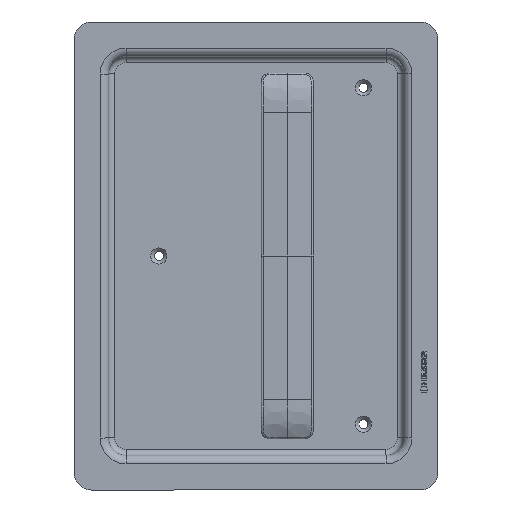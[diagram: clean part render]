
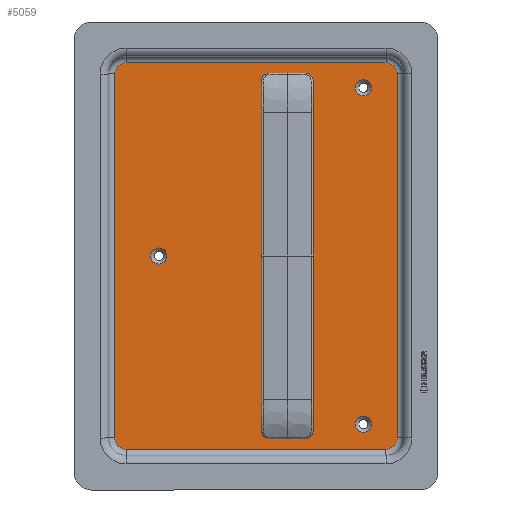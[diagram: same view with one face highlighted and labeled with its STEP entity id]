
A CAD part, front view. The second image highlights one B-rep face of the part: STEP entity #5059.
In plain terms, the highlighted planar face has unit normal (0, -1, 0) as drawn and (0, 0, -1) by its records, which use the part's own axes.
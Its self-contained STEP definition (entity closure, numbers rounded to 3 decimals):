
#453=FACE_BOUND('',#920,.T.);
#454=FACE_BOUND('',#921,.T.);
#455=FACE_BOUND('',#922,.T.);
#456=FACE_BOUND('',#923,.T.);
#457=FACE_BOUND('',#924,.T.);
#458=FACE_BOUND('',#925,.T.);
#459=FACE_BOUND('',#926,.T.);
#488=PLANE('',#5487);
#612=FACE_OUTER_BOUND('',#919,.T.);
#919=EDGE_LOOP('',(#3515,#3516,#3517,#3518,#3519,#3520,#3521,#3522));
#920=EDGE_LOOP('',(#3523));
#921=EDGE_LOOP('',(#3524));
#922=EDGE_LOOP('',(#3525));
#923=EDGE_LOOP('',(#3526));
#924=EDGE_LOOP('',(#3527));
#925=EDGE_LOOP('',(#3528));
#926=EDGE_LOOP('',(#3529));
#1252=LINE('',#7049,#1669);
#1253=LINE('',#7053,#1670);
#1254=LINE('',#7057,#1671);
#1255=LINE('',#7061,#1672);
#1669=VECTOR('',#5900,10.);
#1670=VECTOR('',#5903,10.);
#1671=VECTOR('',#5906,10.);
#1672=VECTOR('',#5909,10.);
#2087=CIRCLE('',#5474,2.75);
#2089=CIRCLE('',#5477,2.75);
#2091=CIRCLE('',#5480,2.75);
#2093=CIRCLE('',#5483,2.75);
#2095=CIRCLE('',#5486,4.65);
#2096=CIRCLE('',#5488,6.5);
#2097=CIRCLE('',#5489,6.5);
#2098=CIRCLE('',#5490,6.5);
#2099=CIRCLE('',#5491,6.5);
#2100=CIRCLE('',#5492,4.65);
#2101=CIRCLE('',#5493,4.65);
#2215=VERTEX_POINT('',#7019);
#2217=VERTEX_POINT('',#7025);
#2219=VERTEX_POINT('',#7031);
#2221=VERTEX_POINT('',#7037);
#2223=VERTEX_POINT('',#7043);
#2224=VERTEX_POINT('',#7047);
#2225=VERTEX_POINT('',#7048);
#2226=VERTEX_POINT('',#7050);
#2227=VERTEX_POINT('',#7052);
#2228=VERTEX_POINT('',#7054);
#2229=VERTEX_POINT('',#7056);
#2230=VERTEX_POINT('',#7058);
#2231=VERTEX_POINT('',#7060);
#2232=VERTEX_POINT('',#7063);
#2233=VERTEX_POINT('',#7065);
#2715=EDGE_CURVE('',#2215,#2215,#2087,.T.);
#2718=EDGE_CURVE('',#2217,#2217,#2089,.T.);
#2721=EDGE_CURVE('',#2219,#2219,#2091,.T.);
#2724=EDGE_CURVE('',#2221,#2221,#2093,.T.);
#2727=EDGE_CURVE('',#2223,#2223,#2095,.T.);
#2729=EDGE_CURVE('',#2224,#2225,#1252,.T.);
#2730=EDGE_CURVE('',#2225,#2226,#2096,.T.);
#2731=EDGE_CURVE('',#2226,#2227,#1253,.T.);
#2732=EDGE_CURVE('',#2227,#2228,#2097,.T.);
#2733=EDGE_CURVE('',#2228,#2229,#1254,.T.);
#2734=EDGE_CURVE('',#2229,#2230,#2098,.T.);
#2735=EDGE_CURVE('',#2230,#2231,#1255,.T.);
#2736=EDGE_CURVE('',#2231,#2224,#2099,.T.);
#2737=EDGE_CURVE('',#2232,#2232,#2100,.T.);
#2738=EDGE_CURVE('',#2233,#2233,#2101,.T.);
#3515=ORIENTED_EDGE('',*,*,#2729,.T.);
#3516=ORIENTED_EDGE('',*,*,#2730,.T.);
#3517=ORIENTED_EDGE('',*,*,#2731,.T.);
#3518=ORIENTED_EDGE('',*,*,#2732,.T.);
#3519=ORIENTED_EDGE('',*,*,#2733,.T.);
#3520=ORIENTED_EDGE('',*,*,#2734,.T.);
#3521=ORIENTED_EDGE('',*,*,#2735,.T.);
#3522=ORIENTED_EDGE('',*,*,#2736,.T.);
#3523=ORIENTED_EDGE('',*,*,#2715,.T.);
#3524=ORIENTED_EDGE('',*,*,#2718,.T.);
#3525=ORIENTED_EDGE('',*,*,#2721,.T.);
#3526=ORIENTED_EDGE('',*,*,#2724,.T.);
#3527=ORIENTED_EDGE('',*,*,#2737,.F.);
#3528=ORIENTED_EDGE('',*,*,#2738,.F.);
#3529=ORIENTED_EDGE('',*,*,#2727,.F.);
#5059=ADVANCED_FACE('',(#612,#453,#454,#455,#456,#457,#458,#459),#488,.F.);
#5474=AXIS2_PLACEMENT_3D('',#7020,#5867,#5868);
#5477=AXIS2_PLACEMENT_3D('',#7026,#5874,#5875);
#5480=AXIS2_PLACEMENT_3D('',#7032,#5881,#5882);
#5483=AXIS2_PLACEMENT_3D('',#7038,#5888,#5889);
#5486=AXIS2_PLACEMENT_3D('',#7044,#5895,#5896);
#5487=AXIS2_PLACEMENT_3D('',#7046,#5898,#5899);
#5488=AXIS2_PLACEMENT_3D('',#7051,#5901,#5902);
#5489=AXIS2_PLACEMENT_3D('',#7055,#5904,#5905);
#5490=AXIS2_PLACEMENT_3D('',#7059,#5907,#5908);
#5491=AXIS2_PLACEMENT_3D('',#7062,#5910,#5911);
#5492=AXIS2_PLACEMENT_3D('',#7064,#5912,#5913);
#5493=AXIS2_PLACEMENT_3D('',#7066,#5914,#5915);
#5867=DIRECTION('center_axis',(0.,0.,1.));
#5868=DIRECTION('ref_axis',(1.,0.,0.));
#5874=DIRECTION('center_axis',(0.,0.,1.));
#5875=DIRECTION('ref_axis',(1.,0.,0.));
#5881=DIRECTION('center_axis',(0.,0.,1.));
#5882=DIRECTION('ref_axis',(1.,0.,0.));
#5888=DIRECTION('center_axis',(0.,0.,1.));
#5889=DIRECTION('ref_axis',(1.,0.,0.));
#5895=DIRECTION('center_axis',(0.,0.,-1.));
#5896=DIRECTION('ref_axis',(1.,0.,0.));
#5898=DIRECTION('center_axis',(0.,0.,1.));
#5899=DIRECTION('ref_axis',(1.,0.,0.));
#5900=DIRECTION('',(-1.,0.,0.));
#5901=DIRECTION('center_axis',(0.,0.,-1.));
#5902=DIRECTION('ref_axis',(-0.707,-0.707,0.));
#5903=DIRECTION('',(0.,1.,0.));
#5904=DIRECTION('center_axis',(0.,0.,-1.));
#5905=DIRECTION('ref_axis',(-0.707,0.707,0.));
#5906=DIRECTION('',(1.,0.,0.));
#5907=DIRECTION('center_axis',(0.,0.,-1.));
#5908=DIRECTION('ref_axis',(0.707,0.707,0.));
#5909=DIRECTION('',(0.,-1.,0.));
#5910=DIRECTION('center_axis',(0.,0.,-1.));
#5911=DIRECTION('ref_axis',(0.707,-0.707,0.));
#5912=DIRECTION('center_axis',(0.,0.,-1.));
#5913=DIRECTION('ref_axis',(1.,0.,0.));
#5914=DIRECTION('center_axis',(0.,0.,-1.));
#5915=DIRECTION('ref_axis',(1.,0.,0.));
#7019=CARTESIAN_POINT('',(17.75,98.,42.));
#7020=CARTESIAN_POINT('Origin',(20.5,98.,42.));
#7025=CARTESIAN_POINT('',(17.75,-98.,42.));
#7026=CARTESIAN_POINT('Origin',(20.5,-98.,42.));
#7031=CARTESIAN_POINT('',(32.75,-98.,42.));
#7032=CARTESIAN_POINT('Origin',(35.5,-98.,42.));
#7037=CARTESIAN_POINT('',(32.75,98.,42.));
#7038=CARTESIAN_POINT('Origin',(35.5,98.,42.));
#7043=CARTESIAN_POINT('',(67.35,97.,42.));
#7044=CARTESIAN_POINT('Origin',(72.,97.,42.));
#7046=CARTESIAN_POINT('Origin',(10.,0.,42.));
#7047=CARTESIAN_POINT('',(85.,-111.5,42.));
#7048=CARTESIAN_POINT('',(-65.,-111.5,42.));
#7049=CARTESIAN_POINT('',(47.5,-111.5,42.));
#7050=CARTESIAN_POINT('',(-71.5,-105.,42.));
#7051=CARTESIAN_POINT('Origin',(-65.,-105.,42.));
#7052=CARTESIAN_POINT('',(-71.5,105.,42.));
#7053=CARTESIAN_POINT('',(-71.5,-52.5,42.));
#7054=CARTESIAN_POINT('',(-65.,111.5,42.));
#7055=CARTESIAN_POINT('Origin',(-65.,105.,42.));
#7056=CARTESIAN_POINT('',(85.,111.5,42.));
#7057=CARTESIAN_POINT('',(-27.5,111.5,42.));
#7058=CARTESIAN_POINT('',(91.5,105.,42.));
#7059=CARTESIAN_POINT('Origin',(85.,105.,42.));
#7060=CARTESIAN_POINT('',(91.5,-105.,42.));
#7061=CARTESIAN_POINT('',(91.5,52.5,42.));
#7062=CARTESIAN_POINT('Origin',(85.,-105.,42.));
#7063=CARTESIAN_POINT('',(67.35,-97.,42.));
#7064=CARTESIAN_POINT('Origin',(72.,-97.,42.));
#7065=CARTESIAN_POINT('',(-50.65,0.,42.));
#7066=CARTESIAN_POINT('Origin',(-46.,0.,42.));
